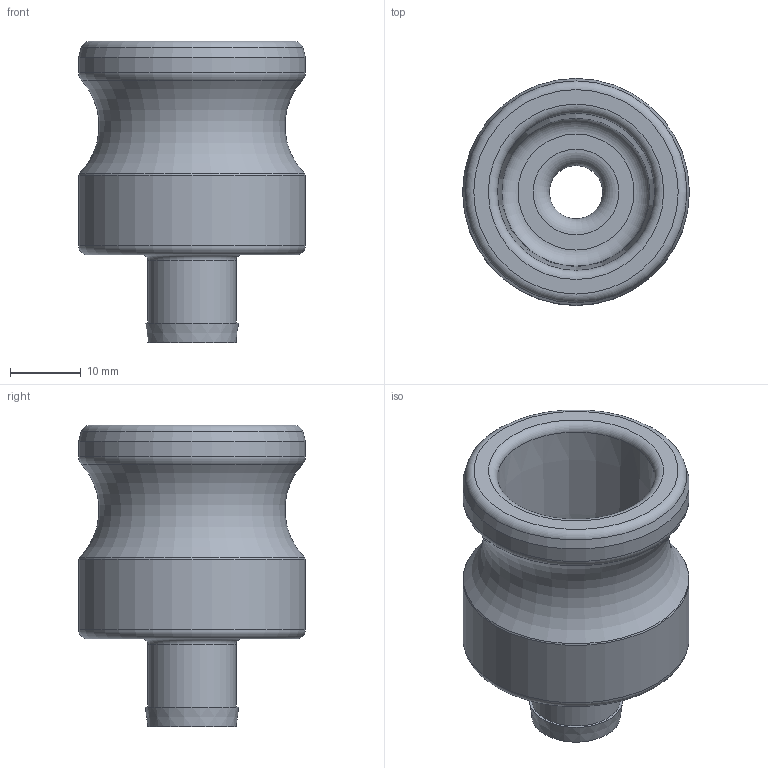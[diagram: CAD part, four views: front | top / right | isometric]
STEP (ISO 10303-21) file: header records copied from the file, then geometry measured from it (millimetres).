
FILE_DESCRIPTION(/* description */ ('Alibre Inc.'),/* implementation_level */ '2;1');
FILE_NAME(/* name */ 'export0',/* time_stamp */ '2017-02-12T13:48:03-05:00',/* author */ (''),/* organization */ (''),/* preprocessor_version */ 'ST-DEVELOPER v14',/* originating_system */ 'Alibre',/* authorisation */ '');
FILE_SCHEMA (('CONFIG_CONTROL_DESIGN'));
Length unit declared in the file: centimetre
Products named in the file (1): ID_1
Bounding box: 32.11 x 32.11 x 42.67 mm (x, y, z)
Volume: 14394.3 mm3; surface area: 6705.6 mm2
Topology: 1 solids, 1 shells, 21 faces, 37 edges, 21 vertices
Faces by surface type: torus 8, plane 5, cylinder 4, cone 4
Full cylindrical faces by diameter (mm): 7.541 x1, 12.497 x1, 32.106 x2
Entity records: 500 total; most frequent: DIRECTION 71, CARTESIAN_POINT 63, ORIENTED_EDGE 42, EDGE_LOOP 42, FACE_BOUND 42, AXIS2_PLACEMENT_3D 42, VERTEX_POINT 21, CIRCLE 21
